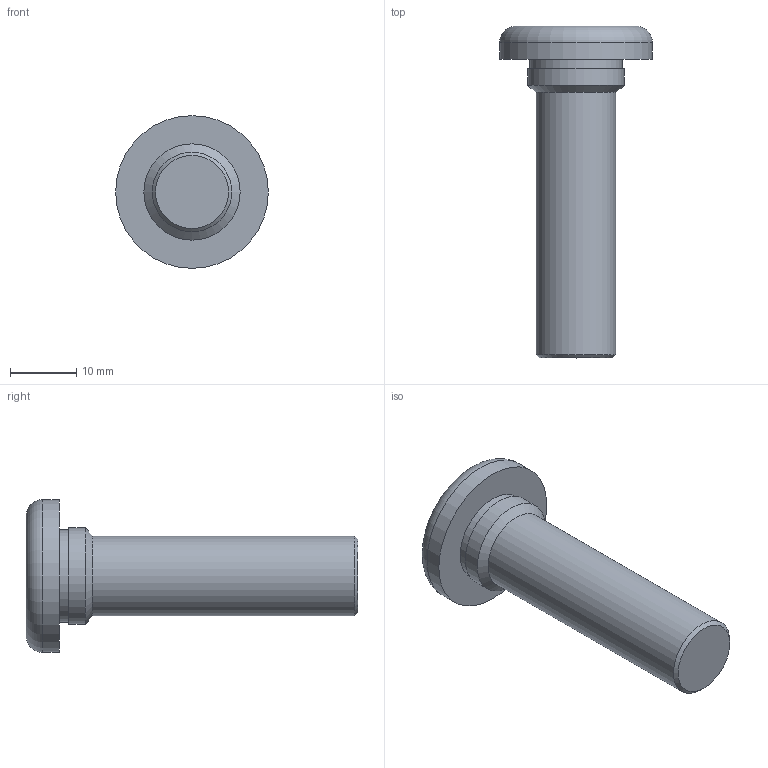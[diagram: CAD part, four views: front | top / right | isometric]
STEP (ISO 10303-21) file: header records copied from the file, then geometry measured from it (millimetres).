
FILE_DESCRIPTION(/* description */ (''),/* implementation_level */ '2;1');
FILE_NAME(/* name */ 'C:\Users\keval.kumar\Desktop\Fastit\Press Screw\M12\Press Screw_M12 x50.stp',/* time_stamp */ '2024-03-12T18:01:09+06:00',/* author */ ('keval.kumar'),/* organization */ (''),/* preprocessor_version */ 'ST-DEVELOPER v18.1',/* originating_system */ 'Autodesk Inventor 2022',/* authorisation */ '');
FILE_SCHEMA (('AUTOMOTIVE_DESIGN { 1 0 10303 214 3 1 1 }'));
Length unit declared in the file: millimetre
Products named in the file (1): Press Screw_M12 x50
Bounding box: 23 x 50 x 23 mm (x, y, z)
Volume: 7283.2 mm3; surface area: 2828.5 mm2
Topology: 1 solids, 1 shells, 11 faces, 19 edges, 12 vertices
Faces by surface type: cylinder 4, plane 4, cone 2, torus 1
Full cylindrical faces by diameter (mm): 12 x1, 13.9 x1, 14.5 x1, 23 x1
Entity records: 313 total; most frequent: DIRECTION 56, CARTESIAN_POINT 43, ORIENTED_EDGE 38, AXIS2_PLACEMENT_3D 25, EDGE_CURVE 19, EDGE_LOOP 13, CIRCLE 13, VERTEX_POINT 12
